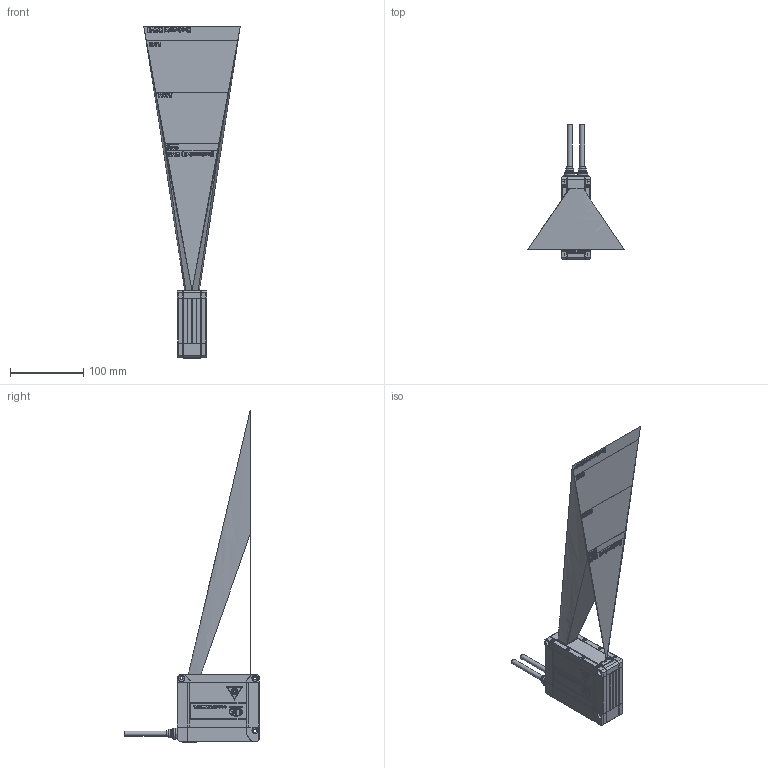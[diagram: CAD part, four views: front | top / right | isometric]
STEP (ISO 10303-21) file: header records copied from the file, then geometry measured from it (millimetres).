
FILE_DESCRIPTION (( 'STEP AP214' ), '1' );
FILE_NAME ('LLT30xx-100.STEP', '2022-11-28T15:57:49', ( '' ), ( '' ), 'SwSTEP 2.0', 'SolidWorks 2020', '' );
FILE_SCHEMA (( 'AUTOMOTIVE_DESIGN' ));
Length unit declared in the file: millimetre
Products named in the file (9): Sensor; EMR; LLT30xx-100; SMR; Field of View; SMR(Ext); EMR(Ext); Measurementrange; MMR
Assembly tree (8 placements, depth 3):
  LLT30xx-100
    Sensor
    Measurementrange
      SMR(Ext)
      SMR
      MMR
      EMR
      EMR(Ext)
    Field of View
Bounding box: 131.3 x 183.4 x 452.2 mm (x, y, z)
Volume: 1004880.9 mm3; surface area: 267477.8 mm2
Topology: 7 solids, 33 shells, 7319 faces, 20612 edges, 13620 vertices
Faces by surface type: plane 5889, bspline 1024, cylinder 280, cone 92, torus 34
Full cylindrical faces by diameter (mm): 2 x16, 2.4 x19, 3.8 x16, 4.2 x3, 4.4 x16, 6.8 x4, 8 x4, 9.2 x2, 10.268 x2, 10.75 x2, 10.8 x2, 11.2 x2, 13 x2, 13.5 x2, 15 x2
Entity records: 359316 total; most frequent: CARTESIAN_POINT 97619, ORIENTED_EDGE 40574, DIRECTION 31563, EDGE_CURVE 20287, LINE 17249, VECTOR 17249, VERTEX_POINT 13515, EDGE_LOOP 7874
